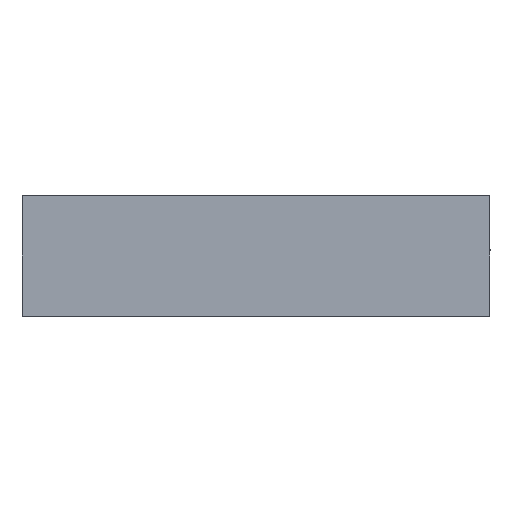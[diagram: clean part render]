
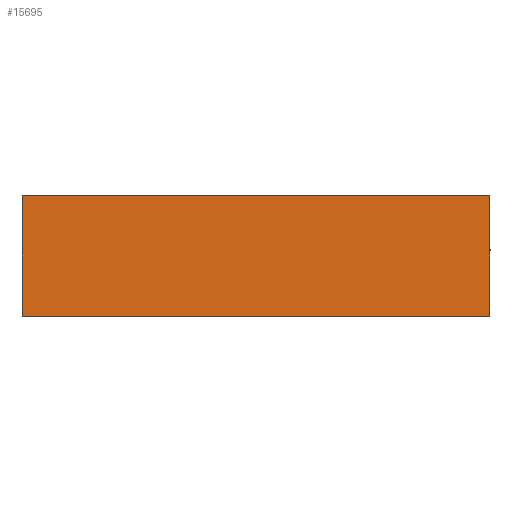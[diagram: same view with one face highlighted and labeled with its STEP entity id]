
A CAD part, front view. The second image highlights one B-rep face of the part: STEP entity #15695.
In plain terms, the highlighted planar face has unit normal (0, -1, 0).
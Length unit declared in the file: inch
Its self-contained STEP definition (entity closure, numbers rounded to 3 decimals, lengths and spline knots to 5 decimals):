
#1325 = DIRECTION ( 'NONE',  ( -1., 0., 0. ) ) ;
#1334 = LINE ( 'NONE', #26879, #13551 ) ;
#1855 = PLANE ( 'NONE',  #24461 ) ;
#2676 = ORIENTED_EDGE ( 'NONE', *, *, #18287, .T. ) ;
#2848 = CARTESIAN_POINT ( 'NONE',  ( 27.25, 0., 0. ) ) ;
#2912 = CARTESIAN_POINT ( 'NONE',  ( 0., 0., 0. ) ) ;
#6257 = DIRECTION ( 'NONE',  ( 0., 0., 1. ) ) ;
#7116 = VECTOR ( 'NONE', #1325, 39.37008 ) ;
#7801 = LINE ( 'NONE', #26694, #7116 ) ;
#8769 = CARTESIAN_POINT ( 'NONE',  ( 0., 0., -7. ) ) ;
#9240 = EDGE_LOOP ( 'NONE', ( #15811, #27422, #24106, #2676 ) ) ;
#11045 = VERTEX_POINT ( 'NONE', #8769 ) ;
#11860 = LINE ( 'NONE', #24099, #22496 ) ;
#11870 = CARTESIAN_POINT ( 'NONE',  ( 27.25, 0., -7. ) ) ;
#12377 = DIRECTION ( 'NONE',  ( -1., 0., 0. ) ) ;
#13551 = VECTOR ( 'NONE', #12377, 39.37008 ) ;
#15695 = ADVANCED_FACE ( 'NONE', ( #18470 ), #1855, .F. ) ;
#15811 = ORIENTED_EDGE ( 'NONE', *, *, #18487, .T. ) ;
#16473 = LINE ( 'NONE', #26772, #22826 ) ;
#16895 = CARTESIAN_POINT ( 'NONE',  ( 27.25, 0., 0. ) ) ;
#18287 = EDGE_CURVE ( 'NONE', #20025, #23384, #1334, .T. ) ;
#18470 = FACE_OUTER_BOUND ( 'NONE', #9240, .T. ) ;
#18487 = EDGE_CURVE ( 'NONE', #23384, #11045, #11860, .T. ) ;
#18680 = EDGE_CURVE ( 'NONE', #21305, #11045, #7801, .T. ) ;
#18722 = EDGE_CURVE ( 'NONE', #20025, #21305, #16473, .T. ) ;
#19048 = DIRECTION ( 'NONE',  ( 0., 1., 0. ) ) ;
#20025 = VERTEX_POINT ( 'NONE', #2848 ) ;
#21305 = VERTEX_POINT ( 'NONE', #11870 ) ;
#22496 = VECTOR ( 'NONE', #26029, 39.37008 ) ;
#22826 = VECTOR ( 'NONE', #26864, 39.37008 ) ;
#23384 = VERTEX_POINT ( 'NONE', #2912 ) ;
#24099 = CARTESIAN_POINT ( 'NONE',  ( 0., 0., 0. ) ) ;
#24106 = ORIENTED_EDGE ( 'NONE', *, *, #18722, .F. ) ;
#24461 = AXIS2_PLACEMENT_3D ( 'NONE', #16895, #19048, #6257 ) ;
#26029 = DIRECTION ( 'NONE',  ( 0., 0., -1. ) ) ;
#26694 = CARTESIAN_POINT ( 'NONE',  ( 27.25, 0., -7. ) ) ;
#26772 = CARTESIAN_POINT ( 'NONE',  ( 27.25, 0., 0. ) ) ;
#26864 = DIRECTION ( 'NONE',  ( 0., 0., -1. ) ) ;
#26879 = CARTESIAN_POINT ( 'NONE',  ( 27.25, 0., 0. ) ) ;
#27422 = ORIENTED_EDGE ( 'NONE', *, *, #18680, .F. ) ;
